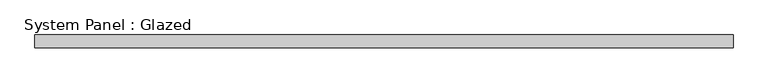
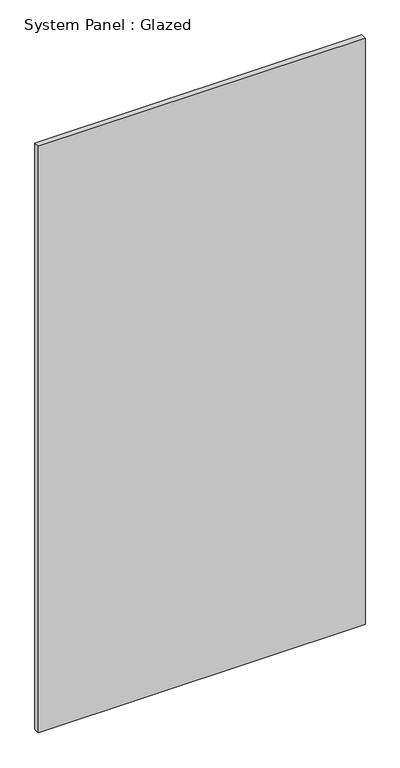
"""IFC4 building model written with IfcOpenShell, lengths in millimetres: plate geometry, System Panel : Glazed."""

import ifcopenshell
import ifcopenshell.guid

model = None  # the IFC model being written
_history = None  # IfcOwnerHistory: only IFC2X3 demands one
_inside = {}  # id of a spatial element -> (the spatial element, [elements in it])
_under = {}  # id of a project, library or spatial element -> (it, [spatial elements below it])
_declared = {}  # id of a project -> (the project, [libraries it declares])
_typed = {}  # id of a type object -> (the type object, [elements of that type])
_made_of = {}  # id of a material, layer set ... -> (it, [elements and type objects made of it])


def new_model(schema):
    """Start an empty IFC model of exactly this schema.

    Asked for "IFC4X3", IfcOpenShell would pick the latest addendum, in which some entities
    have other attributes; the version numbers below select the first issue.
    IFC2X3 requires an IfcOwnerHistory on every rooted entity: one is made here for all.
    """
    global model, _history
    if schema == "IFC4X3":
        model = ifcopenshell.file(schema_version=(4, 3, 0, 0))
    else:
        model = ifcopenshell.file(schema=schema)
    _inside.clear()
    _under.clear()
    _declared.clear()
    _typed.clear()
    _made_of.clear()
    _history = None
    if model.schema == "IFC2X3":
        org = make("IfcOrganization", Name="unknown")
        user = make(
            "IfcPersonAndOrganization",
            ThePerson=make("IfcPerson", FamilyName="unknown"),
            TheOrganization=org,
        )
        app = make(
            "IfcApplication",
            ApplicationDeveloper=org,
            Version="unknown",
            ApplicationFullName="unknown",
            ApplicationIdentifier="unknown",
        )
        _history = make(
            "IfcOwnerHistory",
            OwningUser=user,
            OwningApplication=app,
            ChangeAction="ADDED",
            CreationDate=0,
        )
    return model


def make(cls, **values):
    """One entity of the class cls with the attributes given. An attribute that is None is left unset."""
    return model.create_entity(
        cls, **{name: value for name, value in values.items() if value is not None}
    )


def rooted(cls, **values):
    """An entity with a GlobalId (a new one), such as an element, a storey or a relation."""
    return make(cls, GlobalId=ifcopenshell.guid.new(), OwnerHistory=_history, **values)


def si_unit(unit_type, name, prefix=None):
    """IfcSIUnit, for example si_unit("LENGTHUNIT", "METRE", prefix="MILLI")."""
    return make("IfcSIUnit", UnitType=unit_type, Prefix=prefix, Name=name)


def assignment(units):
    """IfcUnitAssignment: the units of a project."""
    return None if units is None else make("IfcUnitAssignment", Units=units)


def point(xyz):
    """IfcCartesianPoint."""
    return None if xyz is None else make("IfcCartesianPoint", Coordinates=xyz)


def direction(xyz):
    """IfcDirection."""
    return None if xyz is None else make("IfcDirection", DirectionRatios=xyz)


def frame(location, z_axis=None, x_axis=None):
    """IfcAxis2Placement3D, a coordinate frame: its origin and axes. An axis left out is left unset."""
    return make(
        "IfcAxis2Placement3D",
        Location=point(location),
        Axis=direction(z_axis),
        RefDirection=direction(x_axis),
    )


def origin():
    """The frame at (0, 0, 0) with its axes left unset."""
    return frame((0.0, 0.0, 0.0))


def origin_with_axes():
    """The frame at (0, 0, 0) with the z axis (0, 0, 1) and the x axis (1, 0, 0) written out."""
    return frame((0.0, 0.0, 0.0), z_axis=(0.0, 0.0, 1.0), x_axis=(1.0, 0.0, 0.0))


def place(relative_to, where):
    """IfcLocalPlacement: puts the frame where relative to a parent placement (None: the world)."""
    return make(
        "IfcLocalPlacement", PlacementRelTo=relative_to, RelativePlacement=where
    )


def context(
    kind, dimensions, precision=None, world=None, true_north=None, identifier=None
):
    """IfcGeometricRepresentationContext, for example the 3D "Model" context."""
    return make(
        "IfcGeometricRepresentationContext",
        ContextIdentifier=identifier,
        ContextType=kind,
        CoordinateSpaceDimension=dimensions,
        Precision=precision,
        WorldCoordinateSystem=world,
        TrueNorth=true_north,
    )


def project(units=None, contexts=None):
    """IfcProject with its units and contexts."""
    return rooted(
        "IfcProject",
        Name="project",
        RepresentationContexts=contexts,
        UnitsInContext=assignment(units),
    )


def spatial(cls, under=None, at=None, **own):
    """A site, building, storey or space (cls), placed at a placement, below another one or the project."""
    s = rooted(cls, ObjectPlacement=at, **own)
    if under is not None:
        _under.setdefault(under.id(), (under, []))[1].append(s)
    return s


def polyline(points):
    """IfcPolyline through the points."""
    return make("IfcPolyline", Points=[point(p) for p in points])


def outline(outer, holes=None, kind="AREA"):
    """IfcArbitraryClosedProfileDef: a profile drawn as a closed curve; with holes, ...WithVoids."""
    if holes is None:
        return make("IfcArbitraryClosedProfileDef", ProfileType=kind, OuterCurve=outer)
    return make(
        "IfcArbitraryProfileDefWithVoids",
        ProfileType=kind,
        OuterCurve=outer,
        InnerCurves=holes,
    )


def extrude(swept, where, along, depth):
    """IfcExtrudedAreaSolid: the profile swept, set in the frame where, extruded along a direction by depth."""
    return make(
        "IfcExtrudedAreaSolid",
        SweptArea=swept,
        Position=where,
        ExtrudedDirection=direction(along),
        Depth=depth,
    )


def shape(context_of_items, identifier, shape_type, items):
    """IfcShapeRepresentation: the items that make up one representation, for example the "Body"."""
    return make(
        "IfcShapeRepresentation",
        ContextOfItems=context_of_items,
        RepresentationIdentifier=identifier,
        RepresentationType=shape_type,
        Items=items,
    )


def source(mapping_origin, context_of_items, identifier, shape_type, items):
    """IfcRepresentationMap: a shape defined once, which mapped items show again and again."""
    return make(
        "IfcRepresentationMap",
        MappingOrigin=mapping_origin,
        MappedRepresentation=shape(context_of_items, identifier, shape_type, items),
    )


def transform(
    local_origin,
    x_axis=None,
    y_axis=None,
    z_axis=None,
    scale=None,
    scale2=None,
    scale3=None,
    uniform=True,
):
    """IfcCartesianTransformationOperator3D, or its non-uniform kind. x_axis, y_axis, z_axis: its Axis1, 2, 3."""
    if uniform:
        return make(
            "IfcCartesianTransformationOperator3D",
            Axis1=direction(x_axis),
            Axis2=direction(y_axis),
            LocalOrigin=point(local_origin),
            Scale=scale,
            Axis3=direction(z_axis),
        )
    return make(
        "IfcCartesianTransformationOperator3DnonUniform",
        Axis1=direction(x_axis),
        Axis2=direction(y_axis),
        LocalOrigin=point(local_origin),
        Scale=scale,
        Axis3=direction(z_axis),
        Scale2=scale2,
        Scale3=scale3,
    )


def mapped(mapping_source, mapping_target):
    """IfcMappedItem: shows the shape of a source again, moved by a transform."""
    return make(
        "IfcMappedItem", MappingSource=mapping_source, MappingTarget=mapping_target
    )


def made_of(thing, what):
    """Note that an element or type object is made of a material, layer set ...; save() writes the relation."""
    if what is not None:
        _made_of.setdefault(what.id(), (what, []))[1].append(thing)
    return thing


def element(
    cls,
    number,
    at=None,
    inside=None,
    cuts=None,
    type_object=None,
    material=None,
    context=None,
    identifier="Body",
    shape_type=None,
    held_by="IfcProductDefinitionShape",
    body=None,
    shapes=None,
    **own,
):
    """One element of the class cls, such as IfcWall. Its Tag is "e" and its number.

    at: its placement. inside: the storey or other place that contains it. cuts: it is an
    opening in that element (IfcRelVoidsElement). A single representation is given by context,
    identifier, shape_type and body (its items); several are given by shapes. held_by: the class
    of the entity that holds the representations. save() writes the other relations.
    """
    e = rooted(cls, Tag="e%d" % number, ObjectPlacement=at, **own)
    if body is not None:
        shapes = [shape(context, identifier, shape_type, body)]
    if shapes is not None:
        e.Representation = make(held_by, Representations=shapes)
    if inside is not None:
        _inside.setdefault(inside.id(), (inside, []))[1].append(e)
    if cuts is not None:
        rooted(
            "IfcRelVoidsElement", RelatingBuildingElement=cuts, RelatedOpeningElement=e
        )
    if type_object is not None:
        _typed.setdefault(type_object.id(), (type_object, []))[1].append(e)
    return made_of(e, material)


def aggregate(whole, parts):
    """IfcRelAggregates: a whole, such as a stair, and the parts it consists of."""
    return rooted("IfcRelAggregates", RelatingObject=whole, RelatedObjects=parts)


def save(model, path):
    """Write the relations noted so far, then the file.

    IfcRelAggregates (storeys below a building ...), IfcRelContainedInSpatialStructure (elements
    in a storey), IfcRelDefinesByType, IfcRelAssociatesMaterial and IfcRelDeclares: one each for
    every whole, place, type object, material and project.
    """
    for whole, parts in _under.values():
        aggregate(whole, parts)
    for where, things in _inside.values():
        rooted(
            "IfcRelContainedInSpatialStructure",
            RelatedElements=things,
            RelatingStructure=where,
        )
    for kind, things in _typed.values():
        rooted("IfcRelDefinesByType", RelatedObjects=things, RelatingType=kind)
    for what, things in _made_of.values():
        rooted("IfcRelAssociatesMaterial", RelatedObjects=things, RelatingMaterial=what)
    for by, libraries in _declared.values():
        rooted("IfcRelDeclares", RelatingContext=by, RelatedDefinitions=libraries)
    model.write(path)


def system_panel_glazed_97c93be5(model_context):
    return source(origin(), model_context, "Body", "SweptSolid", [
        extrude(outline(polyline([(704.1250001, 19.05), (-704.1250001, 19.05), (-704.1250001, 44.45), (704.1250001, 44.45), (704.1250001, 19.05)])), origin_with_axes(), (0.0, 0.0, 1.0), 2673.0),
    ])


if __name__ == "__main__":
    model = new_model("IFC4")
    model_context = context("Model", 3, world=origin())
    ifc_project = project(units=[si_unit("LENGTHUNIT", "METRE", prefix="MILLI")], contexts=[model_context])
    site = spatial("IfcSite", under=ifc_project)
    building = spatial("IfcBuilding", under=site)
    placement = place(None, origin())
    system_panel_glazed_shape = system_panel_glazed_97c93be5(model_context)
    element("IfcPlate", 1, ObjectType="System Panel : Glazed", at=placement, inside=building, context=model_context, shape_type="MappedRepresentation", body=[
        mapped(system_panel_glazed_shape, transform((0.0, 0.0, 0.0), x_axis=(1.0, 0.0, 0.0), y_axis=(0.0, 1.0, 0.0), z_axis=(0.0, 0.0, 1.0))),
    ])
    save(model, "model.ifc")
